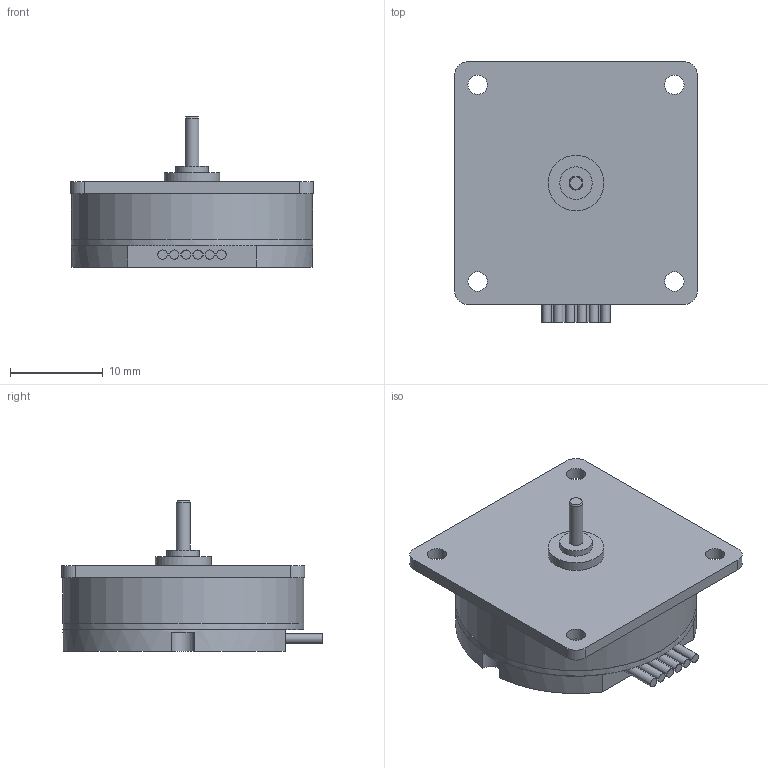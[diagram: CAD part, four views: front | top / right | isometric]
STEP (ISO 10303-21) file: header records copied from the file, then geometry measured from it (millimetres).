
FILE_DESCRIPTION(/* description */ (''),/* implementation_level */ '2;1');
FILE_NAME(/* name */ '2607T_SR_IE-16_3697.stp',/* time_stamp */ '2017-07-31T10:47:21+02:00',/* author */ ('DR. FRITZ FAULHABER GmbH & Co. KG'),/* organization */ ('DR. FRITZ FAULHABER GmbH & Co. KG'),/* preprocessor_version */ 'ST-DEVELOPER v16',/* originating_system */ 'SIEMENS PLM Software NX 10.0',/* authorisation */ '');
FILE_SCHEMA (('AUTOMOTIVE_DESIGN { 1 0 10303 214 3 1 1 1 }'));
Length unit declared in the file: millimetre
Products named in the file (1): Alle_Motoren
Bounding box: 26.2 x 28.1 x 16.2 mm (x, y, z)
Volume: 5072.5 mm3; surface area: 2291.1 mm2
Topology: 1 solids, 1 shells, 59 faces, 151 edges, 102 vertices
Faces by surface type: cylinder 29, plane 29, cone 1
Full cylindrical faces by diameter (mm): 1.5 x1, 2.1 x4, 3.5 x1, 6 x1, 25.99 x1, 26 x2
Entity records: 1762 total; most frequent: DIRECTION 320, CARTESIAN_POINT 292, ORIENTED_EDGE 270, EDGE_CURVE 135, AXIS2_PLACEMENT_3D 125, VERTEX_POINT 97, EDGE_LOOP 86, LINE 70
